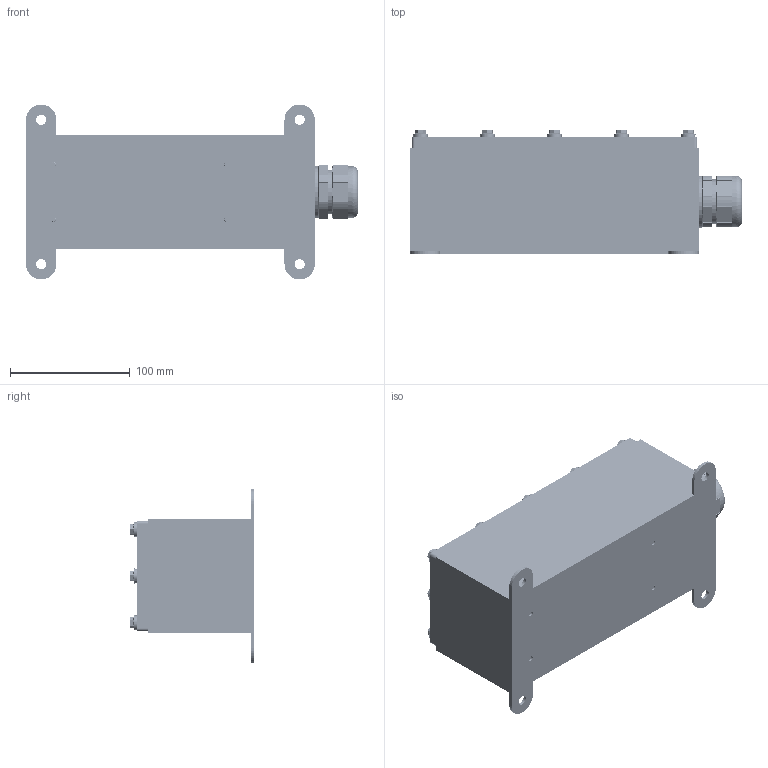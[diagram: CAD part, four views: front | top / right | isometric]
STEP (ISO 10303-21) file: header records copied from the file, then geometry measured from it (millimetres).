
FILE_DESCRIPTION (( 'STEP AP203' ), '1' );
FILE_NAME ('LL-EW.STEP', '2022-05-20T13:27:10', ( '' ), ( '' ), 'SwSTEP 2.0', 'SolidWorks 2021', '' );
FILE_SCHEMA (( 'CONFIG_CONTROL_DESIGN' ));
Length unit declared in the file: inch
Products named in the file (18): LL-EW; Gocator 2530_Body; 201345; 400266; 400102; SP-M5-2; 201344; 98863A535_98863A535; PG29-N01; 500262; PG29-B01; 93625A200; PG29-01-01-01-01_.060 GAP; PG29-S01; 800005; PG29-I01; 800004; 201346
Assembly tree (45 placements, depth 3):
  LL-EW
    201345
      201344
      SP-M5-2  x12
      98863A535_98863A535  x4
    201346
    400266
    500262
    PG29-01-01-01-01_.060 GAP
      PG29-B01
      PG29-I01
      PG29-S01
      PG29-N01
    Gocator 2530_Body
    93625A200  x4
    800004  x12
      800005
      400102
Bounding box: 277.3 x 104.13 x 146.05 mm (x, y, z)
Volume: 783710.2 mm3; surface area: 354358.2 mm2
Topology: 58 solids, 58 shells, 4458 faces, 11714 edges, 7635 vertices
Faces by surface type: cylinder 1849, plane 1703, cone 511, bspline 349, sphere 28, torus 18
Entity records: 95996 total; most frequent: CARTESIAN_POINT 36308, ORIENTED_EDGE 12496, DIRECTION 10836, EDGE_CURVE 6248, VERTEX_POINT 4068, AXIS2_PLACEMENT_3D 3778, VECTOR 3280, LINE 3280
